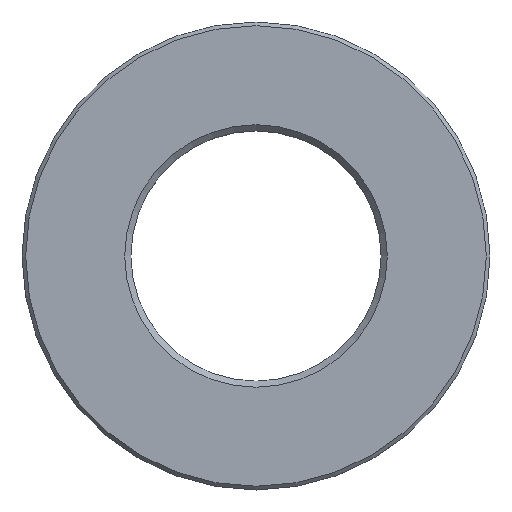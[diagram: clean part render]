
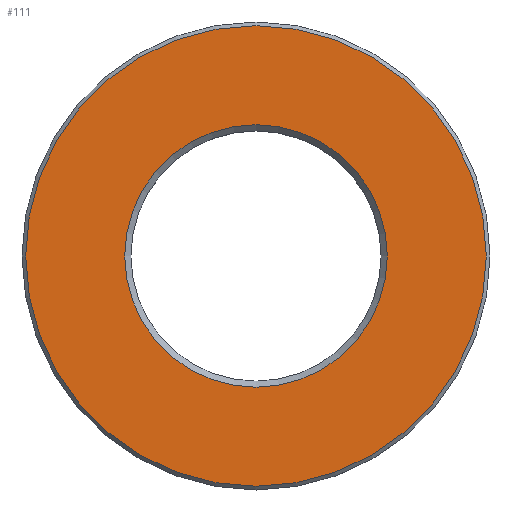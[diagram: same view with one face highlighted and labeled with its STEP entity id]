
A CAD part, top view. The second image highlights one B-rep face of the part: STEP entity #111.
In plain terms, the highlighted planar face has unit normal (0, 0, 1).
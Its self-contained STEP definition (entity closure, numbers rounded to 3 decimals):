
#49=CARTESIAN_POINT('',(18.7,0.,8.0));
#50=VERTEX_POINT('',#49);
#51=CARTESIAN_POINT('',(0.0,0.0,8.0));
#52=DIRECTION('',(0.0,0.0,-1.0));
#53=DIRECTION('',(-1.0,0.0,0.0));
#54=AXIS2_PLACEMENT_3D('',#51,#52,#53);
#55=CIRCLE('',#54,18.7);
#56=EDGE_CURVE('',#50,#50,#55,.T.);
#92=CARTESIAN_POINT('',(0.0,0.0,8.0));
#93=DIRECTION('',(0.0,0.0,-1.0));
#94=DIRECTION('',(-1.0,0.0,0.0));
#95=AXIS2_PLACEMENT_3D('',#92,#93,#94);
#96=PLANE('',#95);
#97=ORIENTED_EDGE('',*,*,#56,.F.);
#98=EDGE_LOOP('',(#97));
#99=FACE_OUTER_BOUND('',#98,.T.);
#100=CARTESIAN_POINT('',(-10.66,0.,8.0));
#101=VERTEX_POINT('',#100);
#102=CARTESIAN_POINT('',(0.0,0.0,8.0));
#103=DIRECTION('',(0.0,0.0,1.0));
#104=DIRECTION('',(1.0,0.0,0.0));
#105=AXIS2_PLACEMENT_3D('',#102,#103,#104);
#106=CIRCLE('',#105,10.66);
#107=EDGE_CURVE('',#101,#101,#106,.T.);
#108=ORIENTED_EDGE('',*,*,#107,.F.);
#109=EDGE_LOOP('',(#108));
#110=FACE_BOUND('',#109,.T.);
#111=ADVANCED_FACE('',(#99,#110),#96,.F.);
